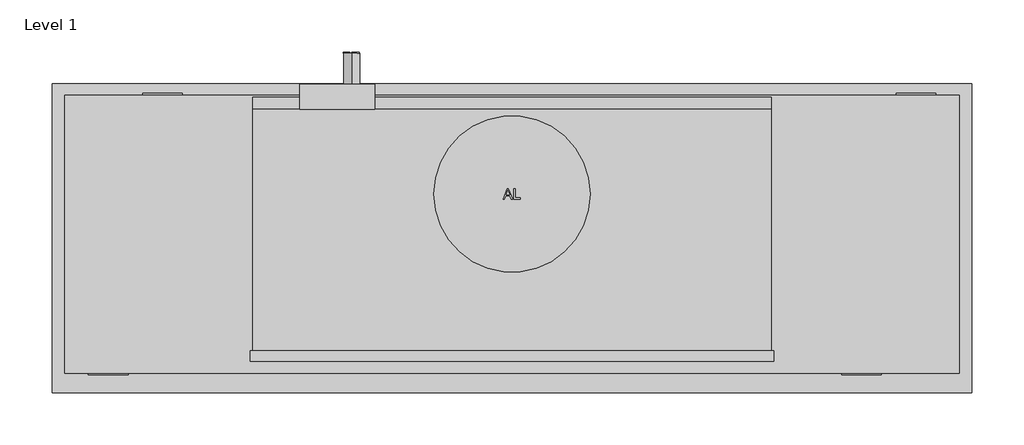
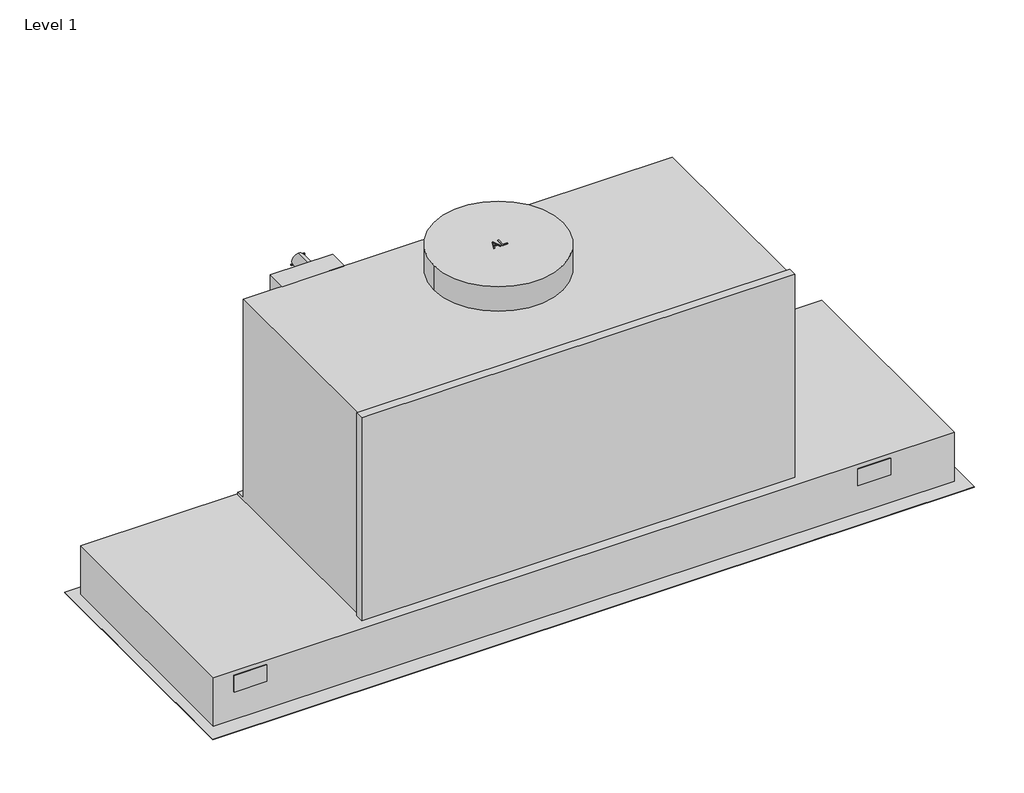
# One storey: 1 proxy.
"""IFC4 building model written with IfcOpenShell, lengths in millimetres."""

from ifc_helpers import new_model, si_unit, origin, place, context, project, spatial, transform, mapped, element, save
from components import specialty_equipment_ee965aab

model = new_model("IFC4")

# Units and contexts
model_context = context("Model", 3, world=origin())
ifc_project = project(units=[si_unit("LENGTHUNIT", "METRE", prefix="MILLI")], contexts=[model_context])

# Site, building, storey
site = spatial("IfcSite", under=ifc_project)
building = spatial("IfcBuilding", under=site)
storey = spatial("IfcBuildingStorey", under=building, Name="Level 1", Elevation=0.0)

# Proxy
placement = place(None, origin())
specialty_equipment_shape = specialty_equipment_ee965aab(model_context)
element("IfcBuildingElementProxy", 1, Name="10863240_RU_DA2698_EDST : 28269855_RU_10863240_DA2698_EDST", ObjectType="10863240_RU_DA2698_EDST : 28269855_RU_10863240_DA2698_EDST", at=placement, inside=storey, context=model_context, shape_type="MappedRepresentation", body=[
    mapped(specialty_equipment_shape, transform((0.0, 0.0, 0.0), x_axis=(1.0, 0.0, 0.0), y_axis=(0.0, 1.0, 0.0), z_axis=(0.0, 0.0, 1.0))),
])

save(model, "model.ifc")
